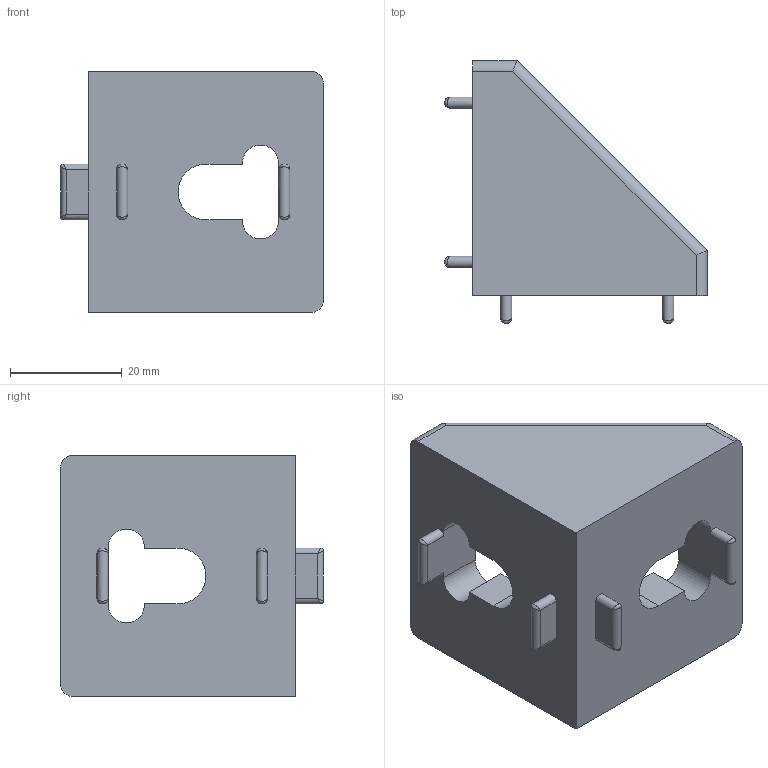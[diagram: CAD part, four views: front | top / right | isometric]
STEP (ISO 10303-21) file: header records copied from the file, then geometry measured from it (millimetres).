
FILE_DESCRIPTION((''),'2;1');
FILE_NAME('E:\catalogue and flyer\Profile catalogue 2015\Accessories JE info\Accessories-JE step file 31MAr16\JE-GE4342-10.stp','2016-03-31T15:38:42',('h029'),(''),'Autodesk Inventor 11','Autodesk Inventor 11','');
FILE_SCHEMA(('AUTOMOTIVE_DESIGN { 1 0 10303 214 1 1 1 1 }'));
Length unit declared in the file: millimetre
Products named in the file (1): JE-GE4342-10
Bounding box: 47 x 47 x 43 mm (x, y, z)
Volume: 27713.9 mm3; surface area: 10832.3 mm2
Topology: 1 solids, 1 shells, 74 faces, 198 edges, 110 vertices
Faces by surface type: cylinder 31, plane 25, bspline 18
Entity records: 5335 total; most frequent: CARTESIAN_POINT 3595, ORIENTED_EDGE 360, DIRECTION 352, EDGE_CURVE 180, AXIS2_PLACEMENT_3D 127, VERTEX_POINT 110, VECTOR 98, LINE 98
